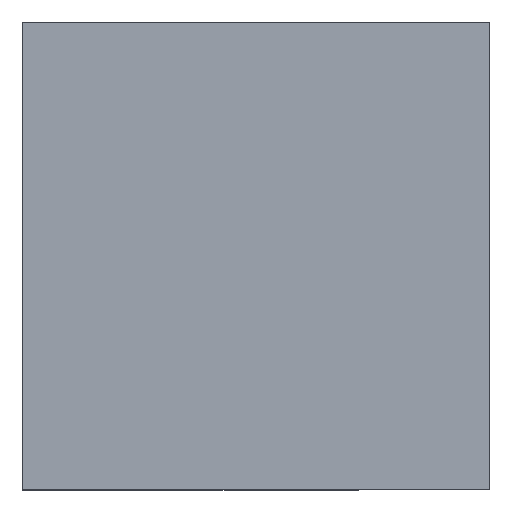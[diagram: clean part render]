
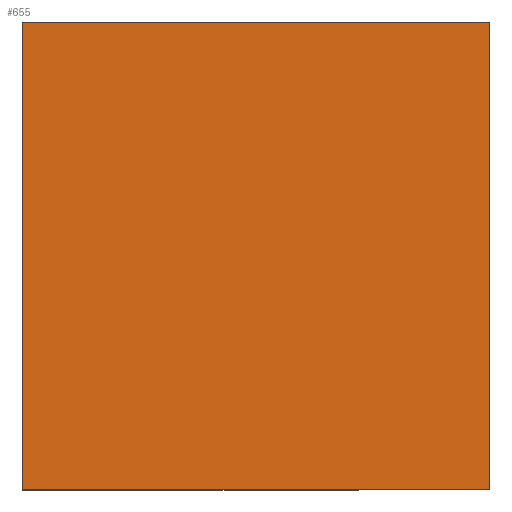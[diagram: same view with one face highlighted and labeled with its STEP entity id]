
A CAD part, top view. The second image highlights one B-rep face of the part: STEP entity #655.
In plain terms, the highlighted planar face has unit normal (0, 0, 1).
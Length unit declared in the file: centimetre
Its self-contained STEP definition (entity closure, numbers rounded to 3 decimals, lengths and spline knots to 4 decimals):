
#35 = DIRECTION ( 'NONE',  ( -1., 0., 0. ) ) ;
#42 = EDGE_LOOP ( 'NONE', ( #1010, #658, #1037, #920 ) ) ;
#57 = EDGE_CURVE ( 'NONE', #1189, #232, #1020, .T. ) ;
#78 = LINE ( 'NONE', #919, #402 ) ;
#123 = DIRECTION ( 'NONE',  ( 1., 0., 0. ) ) ;
#195 = EDGE_CURVE ( 'NONE', #1175, #521, #490, .T. ) ;
#232 = VERTEX_POINT ( 'NONE', #1087 ) ;
#235 = PLANE ( 'NONE',  #323 ) ;
#241 = VECTOR ( 'NONE', #436, 100. ) ;
#284 = EDGE_CURVE ( 'NONE', #521, #1189, #78, .T. ) ;
#323 = AXIS2_PLACEMENT_3D ( 'NONE', #1162, #789, #123 ) ;
#402 = VECTOR ( 'NONE', #448, 100. ) ;
#417 = CARTESIAN_POINT ( 'NONE',  ( 1000., 1000., 1000. ) ) ;
#436 = DIRECTION ( 'NONE',  ( 0., 1., 0. ) ) ;
#448 = DIRECTION ( 'NONE',  ( 0., -1., 0. ) ) ;
#490 = LINE ( 'NONE', #870, #988 ) ;
#521 = VERTEX_POINT ( 'NONE', #941 ) ;
#571 = CARTESIAN_POINT ( 'NONE',  ( 0., 0., 1000. ) ) ;
#655 = ADVANCED_FACE ( 'NONE', ( #702 ), #235, .T. ) ;
#658 = ORIENTED_EDGE ( 'NONE', *, *, #57, .T. ) ;
#664 = DIRECTION ( 'NONE',  ( 1., 0., 0. ) ) ;
#702 = FACE_OUTER_BOUND ( 'NONE', #42, .T. ) ;
#737 = EDGE_CURVE ( 'NONE', #232, #1175, #895, .T. ) ;
#789 = DIRECTION ( 'NONE',  ( 0., 0., 1. ) ) ;
#870 = CARTESIAN_POINT ( 'NONE',  ( 0., 1000., 1000. ) ) ;
#895 = LINE ( 'NONE', #901, #241 ) ;
#901 = CARTESIAN_POINT ( 'NONE',  ( 1000., 1000., 1000. ) ) ;
#919 = CARTESIAN_POINT ( 'NONE',  ( 0., 1000., 1000. ) ) ;
#920 = ORIENTED_EDGE ( 'NONE', *, *, #195, .T. ) ;
#941 = CARTESIAN_POINT ( 'NONE',  ( 0., 1000., 1000. ) ) ;
#951 = VECTOR ( 'NONE', #664, 100. ) ;
#988 = VECTOR ( 'NONE', #35, 100. ) ;
#1010 = ORIENTED_EDGE ( 'NONE', *, *, #284, .T. ) ;
#1020 = LINE ( 'NONE', #571, #951 ) ;
#1037 = ORIENTED_EDGE ( 'NONE', *, *, #737, .T. ) ;
#1087 = CARTESIAN_POINT ( 'NONE',  ( 1000., 0., 1000. ) ) ;
#1162 = CARTESIAN_POINT ( 'NONE',  ( 0., 0., 1000. ) ) ;
#1175 = VERTEX_POINT ( 'NONE', #417 ) ;
#1182 = CARTESIAN_POINT ( 'NONE',  ( 0., 0., 1000. ) ) ;
#1189 = VERTEX_POINT ( 'NONE', #1182 ) ;
